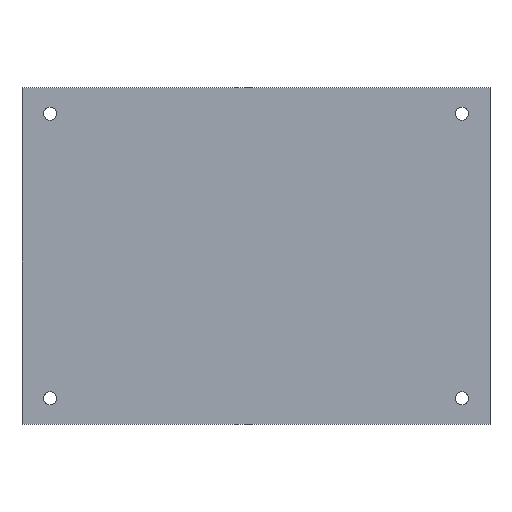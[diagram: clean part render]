
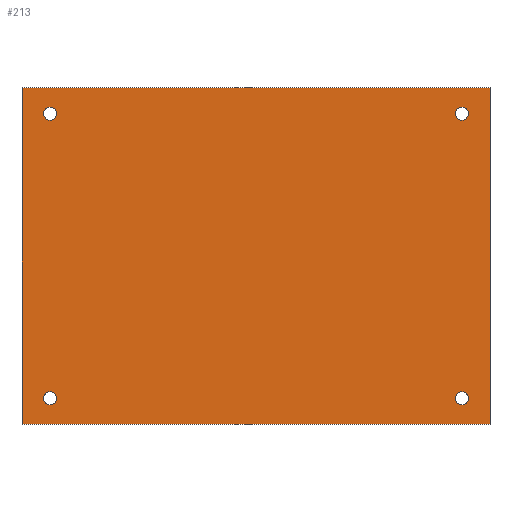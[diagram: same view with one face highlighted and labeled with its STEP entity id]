
A CAD part, top view. The second image highlights one B-rep face of the part: STEP entity #213.
In plain terms, the highlighted planar face has unit normal (0, 0, 1).
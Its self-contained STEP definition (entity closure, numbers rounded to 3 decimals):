
#24 = VERTEX_POINT('',#25);
#25 = CARTESIAN_POINT('',(0.,0.,5.));
#32 = PLANE('',#33);
#33 = AXIS2_PLACEMENT_3D('',#34,#35,#36);
#34 = CARTESIAN_POINT('',(0.,0.,0.));
#35 = DIRECTION('',(1.,0.,0.));
#36 = DIRECTION('',(0.,0.,1.));
#44 = PLANE('',#45);
#45 = AXIS2_PLACEMENT_3D('',#46,#47,#48);
#46 = CARTESIAN_POINT('',(0.,0.,0.));
#47 = DIRECTION('',(0.,1.,0.));
#48 = DIRECTION('',(0.,0.,1.));
#85 = VERTEX_POINT('',#86);
#86 = CARTESIAN_POINT('',(0.,90.,5.));
#100 = PLANE('',#101);
#101 = AXIS2_PLACEMENT_3D('',#102,#103,#104);
#102 = CARTESIAN_POINT('',(0.,90.,0.));
#103 = DIRECTION('',(0.,1.,0.));
#104 = DIRECTION('',(0.,0.,1.));
#112 = EDGE_CURVE('',#24,#85,#113,.T.);
#113 = SURFACE_CURVE('',#114,(#118,#125),.PCURVE_S1.);
#114 = LINE('',#115,#116);
#115 = CARTESIAN_POINT('',(0.,0.,5.));
#116 = VECTOR('',#117,1.);
#117 = DIRECTION('',(0.,1.,0.));
#118 = PCURVE('',#32,#119);
#119 = DEFINITIONAL_REPRESENTATION('',(#120),#124);
#120 = LINE('',#121,#122);
#121 = CARTESIAN_POINT('',(5.,0.));
#122 = VECTOR('',#123,1.);
#123 = DIRECTION('',(0.,-1.));
#124 = ( GEOMETRIC_REPRESENTATION_CONTEXT(2) 
PARAMETRIC_REPRESENTATION_CONTEXT() REPRESENTATION_CONTEXT('2D SPACE',''
  ) );
#125 = PCURVE('',#126,#131);
#126 = PLANE('',#127);
#127 = AXIS2_PLACEMENT_3D('',#128,#129,#130);
#128 = CARTESIAN_POINT('',(0.,0.,5.));
#129 = DIRECTION('',(0.,0.,1.));
#130 = DIRECTION('',(1.,0.,0.));
#131 = DEFINITIONAL_REPRESENTATION('',(#132),#136);
#132 = LINE('',#133,#134);
#133 = CARTESIAN_POINT('',(0.,0.));
#134 = VECTOR('',#135,1.);
#135 = DIRECTION('',(0.,1.));
#136 = ( GEOMETRIC_REPRESENTATION_CONTEXT(2) 
PARAMETRIC_REPRESENTATION_CONTEXT() REPRESENTATION_CONTEXT('2D SPACE',''
  ) );
#165 = EDGE_CURVE('',#24,#166,#168,.T.);
#166 = VERTEX_POINT('',#167);
#167 = CARTESIAN_POINT('',(125.,0.,5.));
#168 = SURFACE_CURVE('',#169,(#173,#180),.PCURVE_S1.);
#169 = LINE('',#170,#171);
#170 = CARTESIAN_POINT('',(0.,0.,5.));
#171 = VECTOR('',#172,1.);
#172 = DIRECTION('',(1.,0.,0.));
#173 = PCURVE('',#44,#174);
#174 = DEFINITIONAL_REPRESENTATION('',(#175),#179);
#175 = LINE('',#176,#177);
#176 = CARTESIAN_POINT('',(5.,0.));
#177 = VECTOR('',#178,1.);
#178 = DIRECTION('',(0.,1.));
#179 = ( GEOMETRIC_REPRESENTATION_CONTEXT(2) 
PARAMETRIC_REPRESENTATION_CONTEXT() REPRESENTATION_CONTEXT('2D SPACE',''
  ) );
#180 = PCURVE('',#126,#181);
#181 = DEFINITIONAL_REPRESENTATION('',(#182),#186);
#182 = LINE('',#183,#184);
#183 = CARTESIAN_POINT('',(0.,0.));
#184 = VECTOR('',#185,1.);
#185 = DIRECTION('',(1.,0.));
#186 = ( GEOMETRIC_REPRESENTATION_CONTEXT(2) 
PARAMETRIC_REPRESENTATION_CONTEXT() REPRESENTATION_CONTEXT('2D SPACE',''
  ) );
#202 = PLANE('',#203);
#203 = AXIS2_PLACEMENT_3D('',#204,#205,#206);
#204 = CARTESIAN_POINT('',(125.,0.,0.));
#205 = DIRECTION('',(1.,0.,0.));
#206 = DIRECTION('',(0.,0.,1.));
#213 = ADVANCED_FACE('',(#214,#262,#293,#324,#355),#126,.T.);
#214 = FACE_BOUND('',#215,.T.);
#215 = EDGE_LOOP('',(#216,#217,#218,#241));
#216 = ORIENTED_EDGE('',*,*,#112,.F.);
#217 = ORIENTED_EDGE('',*,*,#165,.T.);
#218 = ORIENTED_EDGE('',*,*,#219,.T.);
#219 = EDGE_CURVE('',#166,#220,#222,.T.);
#220 = VERTEX_POINT('',#221);
#221 = CARTESIAN_POINT('',(125.,90.,5.));
#222 = SURFACE_CURVE('',#223,(#227,#234),.PCURVE_S1.);
#223 = LINE('',#224,#225);
#224 = CARTESIAN_POINT('',(125.,0.,5.));
#225 = VECTOR('',#226,1.);
#226 = DIRECTION('',(0.,1.,0.));
#227 = PCURVE('',#126,#228);
#228 = DEFINITIONAL_REPRESENTATION('',(#229),#233);
#229 = LINE('',#230,#231);
#230 = CARTESIAN_POINT('',(125.,0.));
#231 = VECTOR('',#232,1.);
#232 = DIRECTION('',(0.,1.));
#233 = ( GEOMETRIC_REPRESENTATION_CONTEXT(2) 
PARAMETRIC_REPRESENTATION_CONTEXT() REPRESENTATION_CONTEXT('2D SPACE',''
  ) );
#234 = PCURVE('',#202,#235);
#235 = DEFINITIONAL_REPRESENTATION('',(#236),#240);
#236 = LINE('',#237,#238);
#237 = CARTESIAN_POINT('',(5.,0.));
#238 = VECTOR('',#239,1.);
#239 = DIRECTION('',(0.,-1.));
#240 = ( GEOMETRIC_REPRESENTATION_CONTEXT(2) 
PARAMETRIC_REPRESENTATION_CONTEXT() REPRESENTATION_CONTEXT('2D SPACE',''
  ) );
#241 = ORIENTED_EDGE('',*,*,#242,.F.);
#242 = EDGE_CURVE('',#85,#220,#243,.T.);
#243 = SURFACE_CURVE('',#244,(#248,#255),.PCURVE_S1.);
#244 = LINE('',#245,#246);
#245 = CARTESIAN_POINT('',(0.,90.,5.));
#246 = VECTOR('',#247,1.);
#247 = DIRECTION('',(1.,0.,0.));
#248 = PCURVE('',#126,#249);
#249 = DEFINITIONAL_REPRESENTATION('',(#250),#254);
#250 = LINE('',#251,#252);
#251 = CARTESIAN_POINT('',(0.,90.));
#252 = VECTOR('',#253,1.);
#253 = DIRECTION('',(1.,0.));
#254 = ( GEOMETRIC_REPRESENTATION_CONTEXT(2) 
PARAMETRIC_REPRESENTATION_CONTEXT() REPRESENTATION_CONTEXT('2D SPACE',''
  ) );
#255 = PCURVE('',#100,#256);
#256 = DEFINITIONAL_REPRESENTATION('',(#257),#261);
#257 = LINE('',#258,#259);
#258 = CARTESIAN_POINT('',(5.,0.));
#259 = VECTOR('',#260,1.);
#260 = DIRECTION('',(0.,1.));
#261 = ( GEOMETRIC_REPRESENTATION_CONTEXT(2) 
PARAMETRIC_REPRESENTATION_CONTEXT() REPRESENTATION_CONTEXT('2D SPACE',''
  ) );
#262 = FACE_BOUND('',#263,.T.);
#263 = EDGE_LOOP('',(#264));
#264 = ORIENTED_EDGE('',*,*,#265,.F.);
#265 = EDGE_CURVE('',#266,#266,#268,.T.);
#266 = VERTEX_POINT('',#267);
#267 = CARTESIAN_POINT('',(9.25,7.,5.));
#268 = SURFACE_CURVE('',#269,(#274,#281),.PCURVE_S1.);
#269 = CIRCLE('',#270,1.75);
#270 = AXIS2_PLACEMENT_3D('',#271,#272,#273);
#271 = CARTESIAN_POINT('',(7.5,7.,5.));
#272 = DIRECTION('',(0.,0.,1.));
#273 = DIRECTION('',(1.,0.,-0.));
#274 = PCURVE('',#126,#275);
#275 = DEFINITIONAL_REPRESENTATION('',(#276),#280);
#276 = CIRCLE('',#277,1.75);
#277 = AXIS2_PLACEMENT_2D('',#278,#279);
#278 = CARTESIAN_POINT('',(7.5,7.));
#279 = DIRECTION('',(1.,0.));
#280 = ( GEOMETRIC_REPRESENTATION_CONTEXT(2) 
PARAMETRIC_REPRESENTATION_CONTEXT() REPRESENTATION_CONTEXT('2D SPACE',''
  ) );
#281 = PCURVE('',#282,#287);
#282 = CYLINDRICAL_SURFACE('',#283,1.75);
#283 = AXIS2_PLACEMENT_3D('',#284,#285,#286);
#284 = CARTESIAN_POINT('',(7.5,7.,-1.));
#285 = DIRECTION('',(0.,0.,1.));
#286 = DIRECTION('',(1.,0.,-0.));
#287 = DEFINITIONAL_REPRESENTATION('',(#288),#292);
#288 = LINE('',#289,#290);
#289 = CARTESIAN_POINT('',(0.,6.));
#290 = VECTOR('',#291,1.);
#291 = DIRECTION('',(1.,0.));
#292 = ( GEOMETRIC_REPRESENTATION_CONTEXT(2) 
PARAMETRIC_REPRESENTATION_CONTEXT() REPRESENTATION_CONTEXT('2D SPACE',''
  ) );
#293 = FACE_BOUND('',#294,.T.);
#294 = EDGE_LOOP('',(#295));
#295 = ORIENTED_EDGE('',*,*,#296,.F.);
#296 = EDGE_CURVE('',#297,#297,#299,.T.);
#297 = VERTEX_POINT('',#298);
#298 = CARTESIAN_POINT('',(119.25,7.,5.));
#299 = SURFACE_CURVE('',#300,(#305,#312),.PCURVE_S1.);
#300 = CIRCLE('',#301,1.75);
#301 = AXIS2_PLACEMENT_3D('',#302,#303,#304);
#302 = CARTESIAN_POINT('',(117.5,7.,5.));
#303 = DIRECTION('',(0.,0.,1.));
#304 = DIRECTION('',(1.,0.,-0.));
#305 = PCURVE('',#126,#306);
#306 = DEFINITIONAL_REPRESENTATION('',(#307),#311);
#307 = CIRCLE('',#308,1.75);
#308 = AXIS2_PLACEMENT_2D('',#309,#310);
#309 = CARTESIAN_POINT('',(117.5,7.));
#310 = DIRECTION('',(1.,0.));
#311 = ( GEOMETRIC_REPRESENTATION_CONTEXT(2) 
PARAMETRIC_REPRESENTATION_CONTEXT() REPRESENTATION_CONTEXT('2D SPACE',''
  ) );
#312 = PCURVE('',#313,#318);
#313 = CYLINDRICAL_SURFACE('',#314,1.75);
#314 = AXIS2_PLACEMENT_3D('',#315,#316,#317);
#315 = CARTESIAN_POINT('',(117.5,7.,-1.));
#316 = DIRECTION('',(0.,0.,1.));
#317 = DIRECTION('',(1.,0.,-0.));
#318 = DEFINITIONAL_REPRESENTATION('',(#319),#323);
#319 = LINE('',#320,#321);
#320 = CARTESIAN_POINT('',(0.,6.));
#321 = VECTOR('',#322,1.);
#322 = DIRECTION('',(1.,0.));
#323 = ( GEOMETRIC_REPRESENTATION_CONTEXT(2) 
PARAMETRIC_REPRESENTATION_CONTEXT() REPRESENTATION_CONTEXT('2D SPACE',''
  ) );
#324 = FACE_BOUND('',#325,.T.);
#325 = EDGE_LOOP('',(#326));
#326 = ORIENTED_EDGE('',*,*,#327,.F.);
#327 = EDGE_CURVE('',#328,#328,#330,.T.);
#328 = VERTEX_POINT('',#329);
#329 = CARTESIAN_POINT('',(9.25,83.,5.));
#330 = SURFACE_CURVE('',#331,(#336,#343),.PCURVE_S1.);
#331 = CIRCLE('',#332,1.75);
#332 = AXIS2_PLACEMENT_3D('',#333,#334,#335);
#333 = CARTESIAN_POINT('',(7.5,83.,5.));
#334 = DIRECTION('',(0.,0.,1.));
#335 = DIRECTION('',(1.,0.,-0.));
#336 = PCURVE('',#126,#337);
#337 = DEFINITIONAL_REPRESENTATION('',(#338),#342);
#338 = CIRCLE('',#339,1.75);
#339 = AXIS2_PLACEMENT_2D('',#340,#341);
#340 = CARTESIAN_POINT('',(7.5,83.));
#341 = DIRECTION('',(1.,0.));
#342 = ( GEOMETRIC_REPRESENTATION_CONTEXT(2) 
PARAMETRIC_REPRESENTATION_CONTEXT() REPRESENTATION_CONTEXT('2D SPACE',''
  ) );
#343 = PCURVE('',#344,#349);
#344 = CYLINDRICAL_SURFACE('',#345,1.75);
#345 = AXIS2_PLACEMENT_3D('',#346,#347,#348);
#346 = CARTESIAN_POINT('',(7.5,83.,-1.));
#347 = DIRECTION('',(0.,0.,1.));
#348 = DIRECTION('',(1.,0.,-0.));
#349 = DEFINITIONAL_REPRESENTATION('',(#350),#354);
#350 = LINE('',#351,#352);
#351 = CARTESIAN_POINT('',(0.,6.));
#352 = VECTOR('',#353,1.);
#353 = DIRECTION('',(1.,0.));
#354 = ( GEOMETRIC_REPRESENTATION_CONTEXT(2) 
PARAMETRIC_REPRESENTATION_CONTEXT() REPRESENTATION_CONTEXT('2D SPACE',''
  ) );
#355 = FACE_BOUND('',#356,.T.);
#356 = EDGE_LOOP('',(#357));
#357 = ORIENTED_EDGE('',*,*,#358,.F.);
#358 = EDGE_CURVE('',#359,#359,#361,.T.);
#359 = VERTEX_POINT('',#360);
#360 = CARTESIAN_POINT('',(119.25,83.,5.));
#361 = SURFACE_CURVE('',#362,(#367,#374),.PCURVE_S1.);
#362 = CIRCLE('',#363,1.75);
#363 = AXIS2_PLACEMENT_3D('',#364,#365,#366);
#364 = CARTESIAN_POINT('',(117.5,83.,5.));
#365 = DIRECTION('',(0.,0.,1.));
#366 = DIRECTION('',(1.,0.,-0.));
#367 = PCURVE('',#126,#368);
#368 = DEFINITIONAL_REPRESENTATION('',(#369),#373);
#369 = CIRCLE('',#370,1.75);
#370 = AXIS2_PLACEMENT_2D('',#371,#372);
#371 = CARTESIAN_POINT('',(117.5,83.));
#372 = DIRECTION('',(1.,0.));
#373 = ( GEOMETRIC_REPRESENTATION_CONTEXT(2) 
PARAMETRIC_REPRESENTATION_CONTEXT() REPRESENTATION_CONTEXT('2D SPACE',''
  ) );
#374 = PCURVE('',#375,#380);
#375 = CYLINDRICAL_SURFACE('',#376,1.75);
#376 = AXIS2_PLACEMENT_3D('',#377,#378,#379);
#377 = CARTESIAN_POINT('',(117.5,83.,-1.));
#378 = DIRECTION('',(0.,0.,1.));
#379 = DIRECTION('',(1.,0.,-0.));
#380 = DEFINITIONAL_REPRESENTATION('',(#381),#385);
#381 = LINE('',#382,#383);
#382 = CARTESIAN_POINT('',(0.,6.));
#383 = VECTOR('',#384,1.);
#384 = DIRECTION('',(1.,0.));
#385 = ( GEOMETRIC_REPRESENTATION_CONTEXT(2) 
PARAMETRIC_REPRESENTATION_CONTEXT() REPRESENTATION_CONTEXT('2D SPACE',''
  ) );
